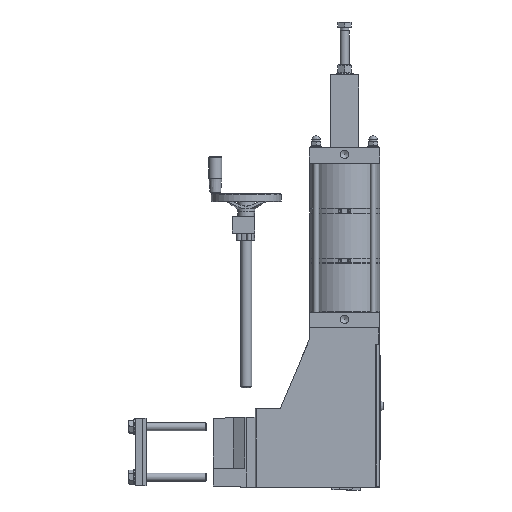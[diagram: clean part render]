
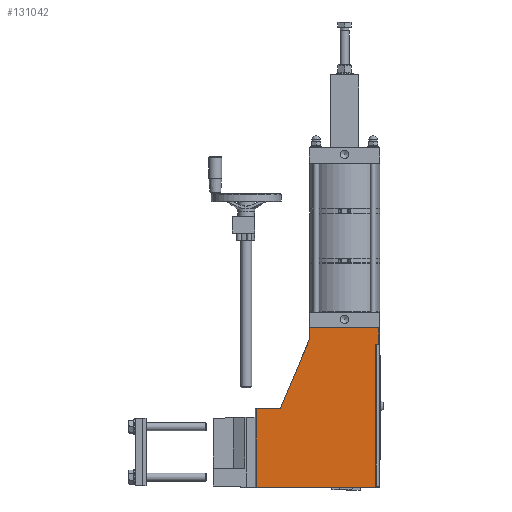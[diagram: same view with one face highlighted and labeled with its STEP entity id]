
A CAD part, left-side view. The second image highlights one B-rep face of the part: STEP entity #131042.
In plain terms, the highlighted planar face has unit normal (-1, 0, 0).
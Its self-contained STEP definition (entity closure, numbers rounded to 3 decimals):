
#12319=PLANE('',#136288);
#18500=FACE_OUTER_BOUND('',#25834,.T.);
#25834=EDGE_LOOP('',(#111837,#111838,#111839,#111840,#111841,#111842,#111843,
#111844,#111845,#111846));
#38342=LINE('',#223194,#49351);
#38346=LINE('',#223203,#49355);
#38448=LINE('',#223530,#49457);
#38610=LINE('',#224161,#49619);
#38621=LINE('',#224182,#49630);
#38684=LINE('',#224325,#49693);
#38695=LINE('',#224345,#49704);
#38784=LINE('',#224633,#49793);
#38789=LINE('',#224655,#49798);
#38790=LINE('',#224656,#49799);
#49351=VECTOR('',#154068,10.);
#49355=VECTOR('',#154078,10.);
#49457=VECTOR('',#154368,10.);
#49619=VECTOR('',#154846,10.);
#49630=VECTOR('',#154859,10.);
#49693=VECTOR('',#154982,10.);
#49704=VECTOR('',#155003,10.);
#49793=VECTOR('',#155272,10.);
#49798=VECTOR('',#155299,10.);
#49799=VECTOR('',#155300,10.);
#60779=VERTEX_POINT('',#223191);
#60780=VERTEX_POINT('',#223193);
#60782=VERTEX_POINT('',#223201);
#60862=VERTEX_POINT('',#223527);
#60863=VERTEX_POINT('',#223529);
#61038=VERTEX_POINT('',#224158);
#61039=VERTEX_POINT('',#224160);
#61048=VERTEX_POINT('',#224181);
#61098=VERTEX_POINT('',#224324);
#61196=VERTEX_POINT('',#224654);
#77866=EDGE_CURVE('',#60780,#60779,#38342,.T.);
#77871=EDGE_CURVE('',#60779,#60782,#38346,.T.);
#78025=EDGE_CURVE('',#60862,#60863,#38448,.T.);
#78289=EDGE_CURVE('',#61038,#61039,#38610,.T.);
#78300=EDGE_CURVE('',#61039,#61048,#38621,.T.);
#78371=EDGE_CURVE('',#61048,#61098,#38684,.T.);
#78382=EDGE_CURVE('',#61098,#60862,#38695,.T.);
#78515=EDGE_CURVE('',#60782,#60863,#38784,.T.);
#78525=EDGE_CURVE('',#61196,#61038,#38789,.T.);
#78526=EDGE_CURVE('',#60780,#61196,#38790,.T.);
#111837=ORIENTED_EDGE('',*,*,#78525,.F.);
#111838=ORIENTED_EDGE('',*,*,#78526,.F.);
#111839=ORIENTED_EDGE('',*,*,#77866,.T.);
#111840=ORIENTED_EDGE('',*,*,#77871,.T.);
#111841=ORIENTED_EDGE('',*,*,#78515,.T.);
#111842=ORIENTED_EDGE('',*,*,#78025,.F.);
#111843=ORIENTED_EDGE('',*,*,#78382,.F.);
#111844=ORIENTED_EDGE('',*,*,#78371,.F.);
#111845=ORIENTED_EDGE('',*,*,#78300,.F.);
#111846=ORIENTED_EDGE('',*,*,#78289,.F.);
#131042=ADVANCED_FACE('',(#18500),#12319,.F.);
#136288=AXIS2_PLACEMENT_3D('',#224653,#155297,#155298);
#154068=DIRECTION('',(0.,1.,0.));
#154078=DIRECTION('',(0.,0.,1.));
#154368=DIRECTION('',(0.,-1.,0.));
#154846=DIRECTION('',(0.,0.,1.));
#154859=DIRECTION('',(0.,0.922,0.387));
#154982=DIRECTION('',(0.,1.,0.));
#155003=DIRECTION('',(0.,0.,1.));
#155272=DIRECTION('',(0.,0.,1.));
#155297=DIRECTION('center_axis',(1.,0.,0.));
#155298=DIRECTION('ref_axis',(0.,0.,
-1.));
#155299=DIRECTION('',(0.,1.,0.));
#155300=DIRECTION('',(0.,0.,-1.));
#223191=CARTESIAN_POINT('',(-63.,255.,215.));
#223193=CARTESIAN_POINT('',(-63.,0.,215.));
#223194=CARTESIAN_POINT('',(-63.,128.108,215.));
#223201=CARTESIAN_POINT('',(-63.,255.,218.));
#223203=CARTESIAN_POINT('',(-63.,255.,172.194));
#223527=CARTESIAN_POINT('',(-63.,285.,221.));
#223529=CARTESIAN_POINT('',(-63.,255.,221.));
#223530=CARTESIAN_POINT('',(-63.,0.,221.));
#224158=CARTESIAN_POINT('',(-63.,140.,2.));
#224160=CARTESIAN_POINT('',(-63.,140.,45.));
#224161=CARTESIAN_POINT('',(-63.,140.,45.));
#224181=CARTESIAN_POINT('',(-63.,265.,97.5));
#224182=CARTESIAN_POINT('',(-63.,265.,97.5));
#224324=CARTESIAN_POINT('',(-63.,285.,97.5));
#224325=CARTESIAN_POINT('',(-63.,285.,97.5));
#224345=CARTESIAN_POINT('',(-63.,285.,221.));
#224633=CARTESIAN_POINT('',(-63.,255.,172.194));
#224653=CARTESIAN_POINT('Origin',(-63.,128.716,123.387));
#224654=CARTESIAN_POINT('',(-63.,0.,2.));
#224655=CARTESIAN_POINT('',(-63.,134.358,2.));
#224656=CARTESIAN_POINT('',(-63.,0.,0.));
